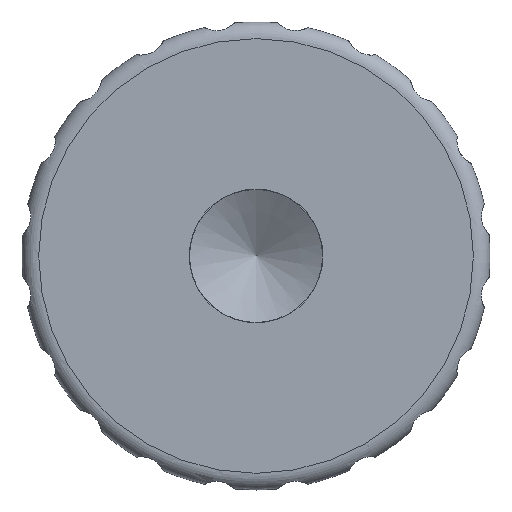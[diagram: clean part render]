
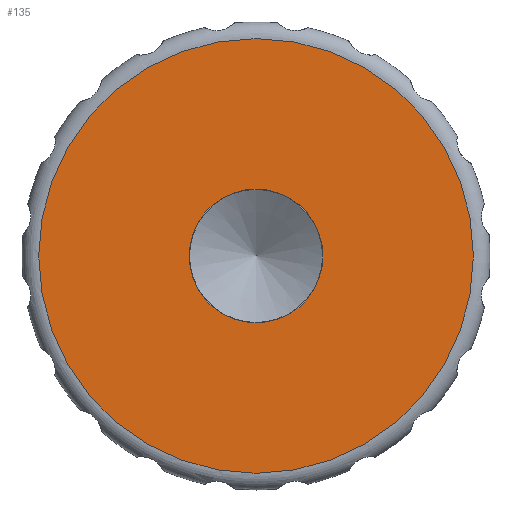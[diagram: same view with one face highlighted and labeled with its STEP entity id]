
A CAD part, left-side view. The second image highlights one B-rep face of the part: STEP entity #135.
In plain terms, the highlighted planar face has unit normal (-1, 0, 0).
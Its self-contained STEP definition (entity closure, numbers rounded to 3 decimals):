
#135 = ADVANCED_FACE( '', ( #271, #272 ), #273, .F. );
#271 = FACE_OUTER_BOUND( '', #411, .T. );
#272 = FACE_BOUND( '', #412, .T. );
#273 = PLANE( '', #413 );
#411 = EDGE_LOOP( '', ( #907 ) );
#412 = EDGE_LOOP( '', ( #908 ) );
#413 = AXIS2_PLACEMENT_3D( '', #909, #910, #911 );
#907 = ORIENTED_EDGE( '', *, *, #1077, .F. );
#908 = ORIENTED_EDGE( '', *, *, #1072, .T. );
#909 = CARTESIAN_POINT( '', ( 0., 4., 0. ) );
#910 = DIRECTION( '', ( 1., 0., 0. ) );
#911 = DIRECTION( '', ( 0., 0., -1. ) );
#1072 = EDGE_CURVE( '', #1332, #1332, #1333, .T. );
#1077 = EDGE_CURVE( '', #1340, #1340, #1341, .T. );
#1332 = VERTEX_POINT( '', #2443 );
#1333 = CIRCLE( '', #2444, 4. );
#1340 = VERTEX_POINT( '', #2451 );
#1341 = CIRCLE( '', #2452, 13. );
#2443 = CARTESIAN_POINT( '', ( 0., 0., -4. ) );
#2444 = AXIS2_PLACEMENT_3D( '', #2651, #2652, #2653 );
#2451 = CARTESIAN_POINT( '', ( 0., 0., -13. ) );
#2452 = AXIS2_PLACEMENT_3D( '', #2663, #2664, #2665 );
#2651 = CARTESIAN_POINT( '', ( 0., 0., 0. ) );
#2652 = DIRECTION( '', ( 1., 0., 0. ) );
#2653 = DIRECTION( '', ( 0., 0., -1. ) );
#2663 = CARTESIAN_POINT( '', ( 0., 0., 0. ) );
#2664 = DIRECTION( '', ( 1., 0., 0. ) );
#2665 = DIRECTION( '', ( 0., 0., -1. ) );
